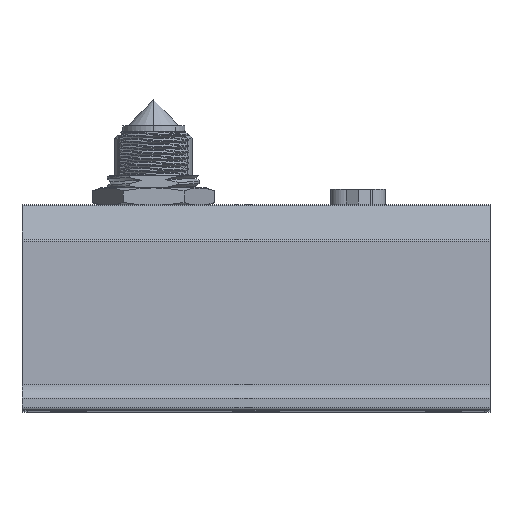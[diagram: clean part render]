
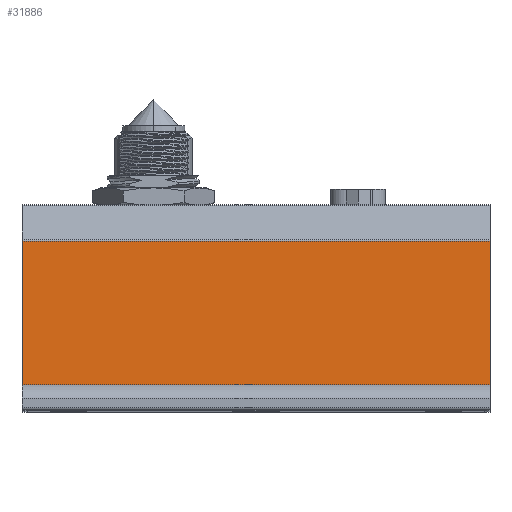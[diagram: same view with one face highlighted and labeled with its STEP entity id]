
A CAD part, top view. The second image highlights one B-rep face of the part: STEP entity #31886.
In plain terms, the highlighted planar face has unit normal (0, 0.035, 0.999).
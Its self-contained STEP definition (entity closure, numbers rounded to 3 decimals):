
#7375=DIRECTION('',(0.,-0.999,0.035));
#7376=VECTOR('',#7375,24.509);
#7377=CARTESIAN_POINT('',(40.,28.867,106.138));
#7378=LINE('',#7377,#7376);
#7454=DIRECTION('',(0.,0.999,-0.035));
#7455=VECTOR('',#7454,24.509);
#7456=CARTESIAN_POINT('',(-40.,4.373,106.993));
#7457=LINE('',#7456,#7455);
#8046=DIRECTION('',(1.,0.,0.));
#8047=VECTOR('',#8046,80.);
#8048=CARTESIAN_POINT('',(-40.,28.867,106.138));
#8049=LINE('',#8048,#8047);
#8050=DIRECTION('',(-1.,0.,0.));
#8051=VECTOR('',#8050,80.);
#8052=CARTESIAN_POINT('',(40.,4.373,106.993));
#8053=LINE('',#8052,#8051);
#17186=CARTESIAN_POINT('',(-40.,4.373,106.993));
#17187=VERTEX_POINT('',#17186);
#17194=CARTESIAN_POINT('',(-40.,28.867,106.138));
#17195=VERTEX_POINT('',#17194);
#17270=CARTESIAN_POINT('',(40.,4.373,106.993));
#17271=VERTEX_POINT('',#17270);
#17290=CARTESIAN_POINT('',(40.,28.867,106.138));
#17291=VERTEX_POINT('',#17290);
#31874=CARTESIAN_POINT('',(40.,2.,107.076));
#31875=DIRECTION('',(0.,-0.035,-0.999));
#31876=DIRECTION('',(0.,0.999,-0.035));
#31877=AXIS2_PLACEMENT_3D('',#31874,#31875,#31876);
#31878=PLANE('',#31877);
#31879=ORIENTED_EDGE('',*,*,#31444,.T.);
#31880=ORIENTED_EDGE('',*,*,#31868,.T.);
#31881=ORIENTED_EDGE('',*,*,#31378,.T.);
#31883=ORIENTED_EDGE('',*,*,#31882,.T.);
#31884=EDGE_LOOP('',(#31879,#31880,#31881,#31883));
#31885=FACE_OUTER_BOUND('',#31884,.F.);
#31886=ADVANCED_FACE('',(#31885),#31878,.F.);
#31378=EDGE_CURVE('',#17291,#17271,#7378,.T.);
#31444=EDGE_CURVE('',#17187,#17195,#7457,.T.);
#31868=EDGE_CURVE('',#17195,#17291,#8049,.T.);
#31882=EDGE_CURVE('',#17271,#17187,#8053,.T.);
